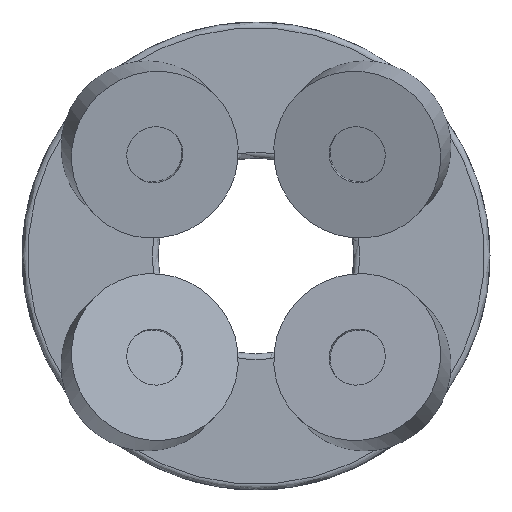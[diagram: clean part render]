
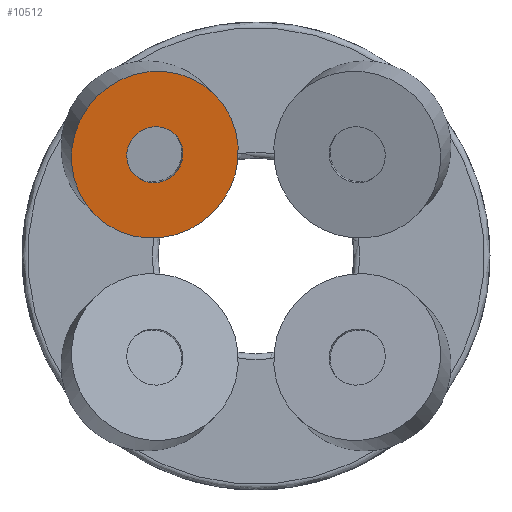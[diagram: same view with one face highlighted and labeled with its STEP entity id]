
A CAD part, top view. The second image highlights one B-rep face of the part: STEP entity #10512.
In plain terms, the highlighted planar face has unit normal (0.183, -0.183, 0.966).
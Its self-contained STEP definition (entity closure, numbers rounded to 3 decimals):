
#8896 = CYLINDRICAL_SURFACE('',#8897,5.2);
#8897 = AXIS2_PLACEMENT_3D('',#8898,#8899,#8900);
#8898 = CARTESIAN_POINT('',(-6.834,6.834,
    2.303));
#8899 = DIRECTION('',(-0.183,0.183,-0.966));
#8900 = DIRECTION('',(-0.683,0.683,0.259));
#10442 = CYLINDRICAL_SURFACE('',#10443,1.75);
#10443 = AXIS2_PLACEMENT_3D('',#10444,#10445,#10446);
#10444 = CARTESIAN_POINT('',(-10.677,10.677,
    -17.981));
#10445 = DIRECTION('',(-0.183,0.183,-0.966));
#10446 = DIRECTION('',(-0.683,0.683,0.259));
#10458 = VERTEX_POINT('',#10459);
#10459 = CARTESIAN_POINT('',(-7.394,7.394,
    6.108));
#10482 = EDGE_CURVE('',#10458,#10458,#10483,.T.);
#10483 = SURFACE_CURVE('',#10484,(#10489,#10496),.PCURVE_S1.);
#10484 = CIRCLE('',#10485,1.75);
#10485 = AXIS2_PLACEMENT_3D('',#10486,#10487,#10488);
#10486 = CARTESIAN_POINT('',(-6.199,6.199,5.655
    ));
#10487 = DIRECTION('',(-0.183,0.183,-0.966));
#10488 = DIRECTION('',(-0.683,0.683,0.259));
#10489 = PCURVE('',#10442,#10490);
#10490 = DEFINITIONAL_REPRESENTATION('',(#10491),#10495);
#10491 = LINE('',#10492,#10493);
#10492 = CARTESIAN_POINT('',(-6.283,-24.47));
#10493 = VECTOR('',#10494,1.);
#10494 = DIRECTION('',(1.,-0.));
#10495 = ( GEOMETRIC_REPRESENTATION_CONTEXT(2) 
PARAMETRIC_REPRESENTATION_CONTEXT() REPRESENTATION_CONTEXT('2D SPACE',''
  ) );
#10496 = PCURVE('',#10497,#10502);
#10497 = PLANE('',#10498);
#10498 = AXIS2_PLACEMENT_3D('',#10499,#10500,#10501);
#10499 = CARTESIAN_POINT('',(-6.199,6.199,5.655
    ));
#10500 = DIRECTION('',(0.183,-0.183,0.966));
#10501 = DIRECTION('',(-0.683,0.683,0.259));
#10502 = DEFINITIONAL_REPRESENTATION('',(#10503),#10511);
#10503 = ( BOUNDED_CURVE() B_SPLINE_CURVE(2,(#10504,#10505,#10506,#10507
    ,#10508,#10509,#10510),.UNSPECIFIED.,.T.,.F.) 
B_SPLINE_CURVE_WITH_KNOTS((1,2,2,2,2,1),(-2.094,0.,
    2.094,4.189,6.283,8.378),
.UNSPECIFIED.) CURVE() GEOMETRIC_REPRESENTATION_ITEM() 
RATIONAL_B_SPLINE_CURVE((1.,0.5,1.,0.5,1.,0.5,1.)) REPRESENTATION_ITEM(
  '') );
#10504 = CARTESIAN_POINT('',(1.75,0.));
#10505 = CARTESIAN_POINT('',(1.75,-3.031));
#10506 = CARTESIAN_POINT('',(-0.875,-1.516));
#10507 = CARTESIAN_POINT('',(-3.5,0.));
#10508 = CARTESIAN_POINT('',(-0.875,1.516));
#10509 = CARTESIAN_POINT('',(1.75,3.031));
#10510 = CARTESIAN_POINT('',(1.75,0.));
#10511 = ( GEOMETRIC_REPRESENTATION_CONTEXT(2) 
PARAMETRIC_REPRESENTATION_CONTEXT() REPRESENTATION_CONTEXT('2D SPACE',''
  ) );
#10512 = ADVANCED_FACE('',(#10513,#10539),#10497,.T.);
#10513 = FACE_BOUND('',#10514,.T.);
#10514 = EDGE_LOOP('',(#10515));
#10515 = ORIENTED_EDGE('',*,*,#10516,.T.);
#10516 = EDGE_CURVE('',#10517,#10517,#10519,.T.);
#10517 = VERTEX_POINT('',#10518);
#10518 = CARTESIAN_POINT('',(-9.75,9.75,
    7.001));
#10519 = SURFACE_CURVE('',#10520,(#10525,#10532),.PCURVE_S1.);
#10520 = CIRCLE('',#10521,5.2);
#10521 = AXIS2_PLACEMENT_3D('',#10522,#10523,#10524);
#10522 = CARTESIAN_POINT('',(-6.199,6.199,5.655
    ));
#10523 = DIRECTION('',(0.183,-0.183,0.966));
#10524 = DIRECTION('',(-0.683,0.683,0.259));
#10525 = PCURVE('',#10497,#10526);
#10526 = DEFINITIONAL_REPRESENTATION('',(#10527),#10531);
#10527 = CIRCLE('',#10528,5.2);
#10528 = AXIS2_PLACEMENT_2D('',#10529,#10530);
#10529 = CARTESIAN_POINT('',(0.,0.));
#10530 = DIRECTION('',(1.,0.));
#10531 = ( GEOMETRIC_REPRESENTATION_CONTEXT(2) 
PARAMETRIC_REPRESENTATION_CONTEXT() REPRESENTATION_CONTEXT('2D SPACE',''
  ) );
#10532 = PCURVE('',#8896,#10533);
#10533 = DEFINITIONAL_REPRESENTATION('',(#10534),#10538);
#10534 = LINE('',#10535,#10536);
#10535 = CARTESIAN_POINT('',(-0.,-3.47));
#10536 = VECTOR('',#10537,1.);
#10537 = DIRECTION('',(-1.,0.));
#10538 = ( GEOMETRIC_REPRESENTATION_CONTEXT(2) 
PARAMETRIC_REPRESENTATION_CONTEXT() REPRESENTATION_CONTEXT('2D SPACE',''
  ) );
#10539 = FACE_BOUND('',#10540,.T.);
#10540 = EDGE_LOOP('',(#10541));
#10541 = ORIENTED_EDGE('',*,*,#10482,.T.);
